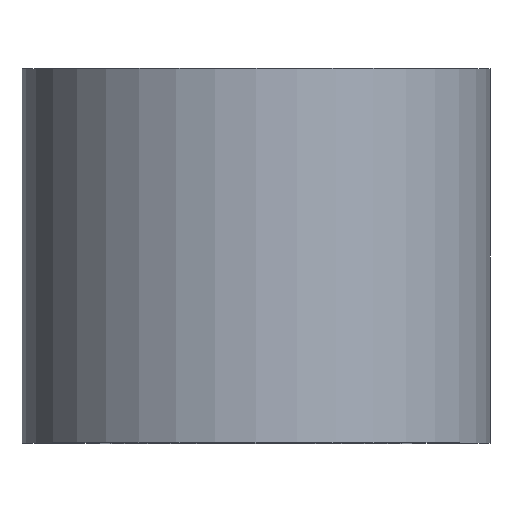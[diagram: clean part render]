
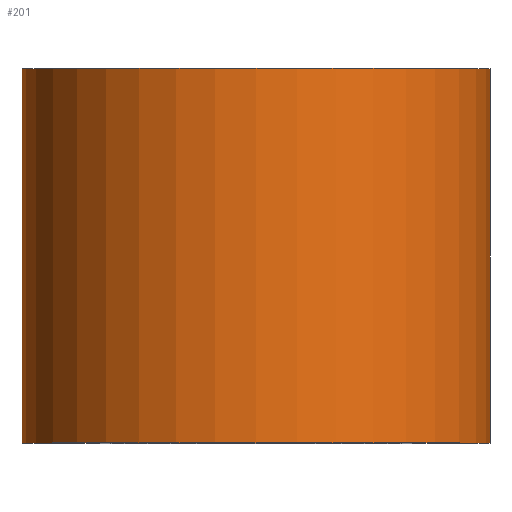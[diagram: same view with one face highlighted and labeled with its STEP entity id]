
A CAD part, top view. The second image highlights one B-rep face of the part: STEP entity #201.
In plain terms, the highlighted cylindrical face has radius 7.5 mm (diameter 15 mm), a partial arc.
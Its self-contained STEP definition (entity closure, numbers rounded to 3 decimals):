
#7 = CYLINDRICAL_SURFACE ( 'NONE', #178, 7.5 ) ;
#9 = ORIENTED_EDGE ( 'NONE', *, *, #72, .F. ) ;
#14 = CARTESIAN_POINT ( 'NONE',  ( 7.5, 12., 0. ) ) ;
#32 = CARTESIAN_POINT ( 'NONE',  ( 0., 12., 0. ) ) ;
#34 = DIRECTION ( 'NONE',  ( -1., 0., 0. ) ) ;
#41 = VERTEX_POINT ( 'NONE', #166 ) ;
#52 = CARTESIAN_POINT ( 'NONE',  ( 0., 0., 0. ) ) ;
#57 = DIRECTION ( 'NONE',  ( 0., 1., 0. ) ) ;
#58 = CARTESIAN_POINT ( 'NONE',  ( 7.5, 0., 0. ) ) ;
#72 = EDGE_CURVE ( 'NONE', #41, #113, #74, .T. ) ;
#74 = CIRCLE ( 'NONE', #98, 7.5 ) ;
#77 = LINE ( 'NONE', #91, #264 ) ;
#83 = VECTOR ( 'NONE', #92, 1000. ) ;
#91 = CARTESIAN_POINT ( 'NONE',  ( -7.5, 0., 0. ) ) ;
#92 = DIRECTION ( 'NONE',  ( 0., 1., 0. ) ) ;
#93 = VERTEX_POINT ( 'NONE', #58 ) ;
#95 = CARTESIAN_POINT ( 'NONE',  ( 7.5, 0., 0. ) ) ;
#98 = AXIS2_PLACEMENT_3D ( 'NONE', #32, #57, #106 ) ;
#101 = DIRECTION ( 'NONE',  ( -1., 0., 0. ) ) ;
#105 = ORIENTED_EDGE ( 'NONE', *, *, #227, .F. ) ;
#106 = DIRECTION ( 'NONE',  ( -1., 0., 0. ) ) ;
#107 = EDGE_CURVE ( 'NONE', #160, #93, #231, .T. ) ;
#110 = LINE ( 'NONE', #95, #83 ) ;
#113 = VERTEX_POINT ( 'NONE', #14 ) ;
#117 = EDGE_LOOP ( 'NONE', ( #144, #300, #9, #105 ) ) ;
#118 = AXIS2_PLACEMENT_3D ( 'NONE', #172, #174, #34 ) ;
#126 = CARTESIAN_POINT ( 'NONE',  ( -7.5, 0., 0. ) ) ;
#144 = ORIENTED_EDGE ( 'NONE', *, *, #107, .T. ) ;
#159 = FACE_OUTER_BOUND ( 'NONE', #117, .T. ) ;
#160 = VERTEX_POINT ( 'NONE', #126 ) ;
#166 = CARTESIAN_POINT ( 'NONE',  ( -7.5, 12., 0. ) ) ;
#171 = DIRECTION ( 'NONE',  ( 0., 1., 0. ) ) ;
#172 = CARTESIAN_POINT ( 'NONE',  ( 0., 0., 0. ) ) ;
#174 = DIRECTION ( 'NONE',  ( 0., 1., 0. ) ) ;
#178 = AXIS2_PLACEMENT_3D ( 'NONE', #52, #171, #101 ) ;
#201 = ADVANCED_FACE ( 'NONE', ( #159 ), #7, .T. ) ;
#227 = EDGE_CURVE ( 'NONE', #160, #41, #77, .T. ) ;
#230 = DIRECTION ( 'NONE',  ( 0., 1., 0. ) ) ;
#231 = CIRCLE ( 'NONE', #118, 7.5 ) ;
#264 = VECTOR ( 'NONE', #230, 1000. ) ;
#273 = EDGE_CURVE ( 'NONE', #93, #113, #110, .T. ) ;
#300 = ORIENTED_EDGE ( 'NONE', *, *, #273, .T. ) ;
